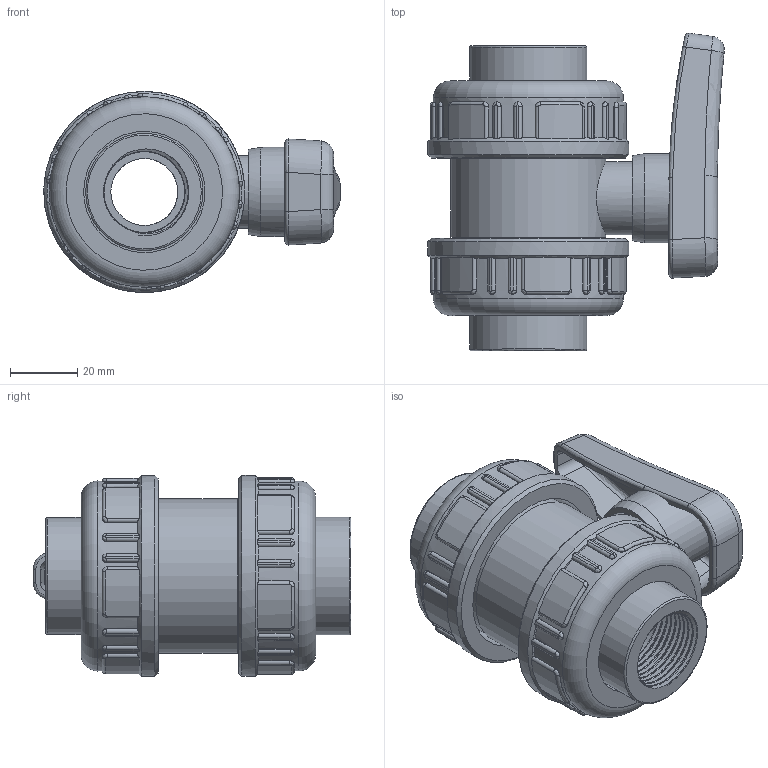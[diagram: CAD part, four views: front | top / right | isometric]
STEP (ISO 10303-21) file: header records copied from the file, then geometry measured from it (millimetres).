
FILE_DESCRIPTION(/* description */ (''),/* implementation_level */ '2;1');
FILE_NAME(/* name */ 'C:\Users\POLYPIPE\Desktop\DATASET INVENTOR\LIBRERIA EFFAST\3D_VALVOLE\3D_VALVOLE A SFERA\3D_BV\3D_BERBVE\3D_BERBVE025C.stp',/* time_stamp */ '2018-01-24T09:44:59+01:00',/* author */ ('POLYPIPE'),/* organization */ (''),/* preprocessor_version */ 'ST-DEVELOPER v16.1',/* originating_system */ 'Autodesk Inventor 2016',/* authorisation */ '');
FILE_SCHEMA (('CONFIG_CONTROL_DESIGN'));
Length unit declared in the file: centimetre
Products named in the file (1): 3D_BERBVE025C
Bounding box: 88.46 x 94.77 x 60 mm (x, y, z)
Volume: 151668.1 mm3; surface area: 54648.9 mm2
Topology: 2 solids, 3 shells, 528 faces, 1356 edges, 852 vertices
Faces by surface type: plane 173, bspline 172, cylinder 162, torus 16, cone 5
Full cylindrical faces by diameter (mm): 13.9 x1, 20 x2, 20.2 x1, 21.8 x1, 23.8 x1, 24.117 x2, 26.6 x1, 31.4 x1, 35 x3, 36.2 x2, 43 x2, 45.15 x2, 46.15 x1, 48.3 x2, 56.7 x2, 60 x2
Entity records: 67133 total; most frequent: CARTESIAN_POINT 54782, ORIENTED_EDGE 2622, DIRECTION 2147, EDGE_CURVE 1309, VERTEX_POINT 840, AXIS2_PLACEMENT_3D 826, EDGE_LOOP 587, STYLED_ITEM 530
